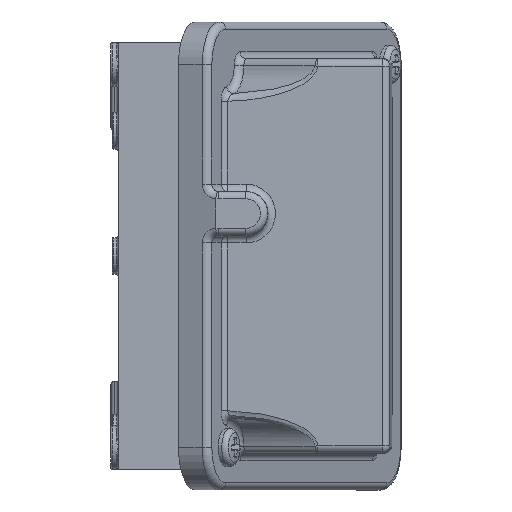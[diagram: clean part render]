
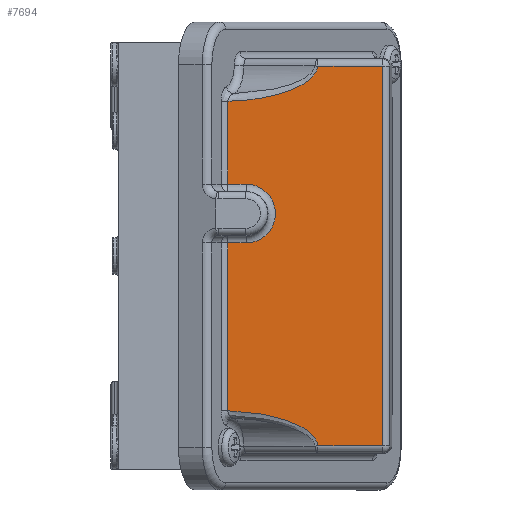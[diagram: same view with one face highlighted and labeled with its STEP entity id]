
A CAD part, front view. The second image highlights one B-rep face of the part: STEP entity #7694.
In plain terms, the highlighted planar face has unit normal (-0.005, -1, 0).
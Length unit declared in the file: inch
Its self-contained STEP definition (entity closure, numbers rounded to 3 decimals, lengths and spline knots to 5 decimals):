
#68 = DIRECTION ( 'NONE',  ( -1., 0.005, 0. ) ) ;
#87 = EDGE_CURVE ( 'NONE', #4641, #1575, #5794, .T. ) ;
#96 = EDGE_CURVE ( 'NONE', #1575, #7497, #137, .T. ) ;
#137 =( BOUNDED_CURVE ( )  B_SPLINE_CURVE ( 3, ( #4941, #218, #2828, #2641 ),
 .UNSPECIFIED., .F., .T. ) 
 B_SPLINE_CURVE_WITH_KNOTS ( ( 4, 4 ),
 ( 1.62751, 3.09357 ),
 .UNSPECIFIED. ) 
 CURVE ( )  GEOMETRIC_REPRESENTATION_ITEM ( )  RATIONAL_B_SPLINE_CURVE ( ( 1., 0.829, 0.829, 1. ) ) 
 REPRESENTATION_ITEM ( '' )  );
#218 = CARTESIAN_POINT ( 'NONE',  ( 1.36714, -3.55849, -1.32254 ) ) ;
#330 = VERTEX_POINT ( 'NONE', #6708 ) ;
#459 = EDGE_CURVE ( 'NONE', #5770, #3594, #6228, .T. ) ;
#655 = LINE ( 'NONE', #3074, #3153 ) ;
#695 = ORIENTED_EDGE ( 'NONE', *, *, #5471, .T. ) ;
#880 = LINE ( 'NONE', #6786, #5280 ) ;
#947 = EDGE_CURVE ( 'NONE', #3604, #330, #6978, .T. ) ;
#984 = CARTESIAN_POINT ( 'NONE',  ( 0.932, -3.55622, 0.6095 ) ) ;
#1133 = VERTEX_POINT ( 'NONE', #4243 ) ;
#1371 = CARTESIAN_POINT ( 'NONE',  ( 1.08558, -3.55702, 0.36 ) ) ;
#1441 = DIRECTION ( 'NONE',  ( 0., 0., -1. ) ) ;
#1462 =( BOUNDED_CURVE ( )  B_SPLINE_CURVE ( 3, ( #7365, #1983, #4377, #6338 ),
 .UNSPECIFIED., .F., .F. ) 
 B_SPLINE_CURVE_WITH_KNOTS ( ( 4, 4 ),
 ( 3.18961, 4.65567 ),
 .UNSPECIFIED. ) 
 CURVE ( )  GEOMETRIC_REPRESENTATION_ITEM ( )  RATIONAL_B_SPLINE_CURVE ( ( 1., 0.829, 0.829, 1. ) ) 
 REPRESENTATION_ITEM ( '' )  );
#1575 = VERTEX_POINT ( 'NONE', #7760 ) ;
#1926 = CARTESIAN_POINT ( 'NONE',  ( 2.30517, -3.56338, -1.61 ) ) ;
#1983 = CARTESIAN_POINT ( 'NONE',  ( 1.67399, -3.56009, 1.44199 ) ) ;
#2326 = DIRECTION ( 'NONE',  ( 1., -0.005, 0. ) ) ;
#2400 = DIRECTION ( 'NONE',  ( -1., 0.005, 0. ) ) ;
#2499 = PLANE ( 'NONE',  #5264 ) ;
#2531 = DIRECTION ( 'NONE',  ( -1., 0.005, 0. ) ) ;
#2586 = VECTOR ( 'NONE', #5082, 39.37008 ) ;
#2605 = CARTESIAN_POINT ( 'NONE',  ( 0.932, -3.55622, 1.6725 ) ) ;
#2641 = CARTESIAN_POINT ( 'NONE',  ( 1.69491, -3.5602, -1.61 ) ) ;
#2828 = CARTESIAN_POINT ( 'NONE',  ( 1.67399, -3.56009, -1.44199 ) ) ;
#2839 = CARTESIAN_POINT ( 'NONE',  ( 2.24267, -3.56306, 1.61 ) ) ;
#2890 = ORIENTED_EDGE ( 'NONE', *, *, #87, .T. ) ;
#3062 = VECTOR ( 'NONE', #2531, 39.37008 ) ;
#3070 = ORIENTED_EDGE ( 'NONE', *, *, #7407, .T. ) ;
#3074 = CARTESIAN_POINT ( 'NONE',  ( 2.30517, -3.56338, 0.1105 ) ) ;
#3076 = ORIENTED_EDGE ( 'NONE', *, *, #947, .T. ) ;
#3153 = VECTOR ( 'NONE', #68, 39.37008 ) ;
#3202 = VERTEX_POINT ( 'NONE', #5815 ) ;
#3359 = CARTESIAN_POINT ( 'NONE',  ( 2.24267, -3.56306, -1.61 ) ) ;
#3375 = CARTESIAN_POINT ( 'NONE',  ( 1.69491, -3.5602, -1.61 ) ) ;
#3476 = EDGE_CURVE ( 'NONE', #330, #4641, #655, .T. ) ;
#3594 = VERTEX_POINT ( 'NONE', #2839 ) ;
#3604 = VERTEX_POINT ( 'NONE', #4597 ) ;
#3666 = ORIENTED_EDGE ( 'NONE', *, *, #96, .T. ) ;
#4043 = DIRECTION ( 'NONE',  ( 0., 0., -1. ) ) ;
#4180 = EDGE_CURVE ( 'NONE', #1133, #3202, #1462, .T. ) ;
#4229 = CARTESIAN_POINT ( 'NONE',  ( 2.30517, -3.56338, 1.6725 ) ) ;
#4243 = CARTESIAN_POINT ( 'NONE',  ( 1.69491, -3.5602, 1.61 ) ) ;
#4291 = DIRECTION ( 'NONE',  ( 0.005, 1., 0. ) ) ;
#4330 = VECTOR ( 'NONE', #4043, 39.37008 ) ;
#4377 = CARTESIAN_POINT ( 'NONE',  ( 1.36714, -3.55849, 1.32254 ) ) ;
#4597 = CARTESIAN_POINT ( 'NONE',  ( 1.08558, -3.55702, 0.6095 ) ) ;
#4641 = VERTEX_POINT ( 'NONE', #6923 ) ;
#4782 = ORIENTED_EDGE ( 'NONE', *, *, #459, .T. ) ;
#4788 = EDGE_CURVE ( 'NONE', #7497, #5770, #5446, .T. ) ;
#4941 = CARTESIAN_POINT ( 'NONE',  ( 0.932, -3.55622, -1.313 ) ) ;
#4977 = DIRECTION ( 'NONE',  ( 1., -0.005, 0. ) ) ;
#5082 = DIRECTION ( 'NONE',  ( 0., 0., 1. ) ) ;
#5206 = EDGE_LOOP ( 'NONE', ( #2890, #3666, #7476, #4782, #695, #6471, #3070, #7649, #3076, #6143 ) ) ;
#5264 = AXIS2_PLACEMENT_3D ( 'NONE', #4229, #7249, #5943 ) ;
#5280 = VECTOR ( 'NONE', #1441, 39.37008 ) ;
#5325 = LINE ( 'NONE', #7772, #6446 ) ;
#5398 = VERTEX_POINT ( 'NONE', #984 ) ;
#5446 = LINE ( 'NONE', #1926, #6824 ) ;
#5471 = EDGE_CURVE ( 'NONE', #3594, #1133, #7782, .T. ) ;
#5712 = CARTESIAN_POINT ( 'NONE',  ( 2.24267, -3.56306, 1.6725 ) ) ;
#5770 = VERTEX_POINT ( 'NONE', #3359 ) ;
#5794 = LINE ( 'NONE', #2605, #4330 ) ;
#5815 = CARTESIAN_POINT ( 'NONE',  ( 0.932, -3.55622, 1.313 ) ) ;
#5863 = EDGE_CURVE ( 'NONE', #5398, #3604, #5325, .T. ) ;
#5943 = DIRECTION ( 'NONE',  ( -1., 0.005, 0. ) ) ;
#6143 = ORIENTED_EDGE ( 'NONE', *, *, #3476, .T. ) ;
#6228 = LINE ( 'NONE', #5712, #2586 ) ;
#6338 = CARTESIAN_POINT ( 'NONE',  ( 0.932, -3.55622, 1.313 ) ) ;
#6446 = VECTOR ( 'NONE', #2326, 39.37008 ) ;
#6471 = ORIENTED_EDGE ( 'NONE', *, *, #4180, .T. ) ;
#6694 = CARTESIAN_POINT ( 'NONE',  ( 2.30517, -3.56338, 1.61 ) ) ;
#6708 = CARTESIAN_POINT ( 'NONE',  ( 1.08558, -3.55702, 0.1105 ) ) ;
#6786 = CARTESIAN_POINT ( 'NONE',  ( 0.932, -3.55622, 1.6725 ) ) ;
#6824 = VECTOR ( 'NONE', #4977, 39.37008 ) ;
#6923 = CARTESIAN_POINT ( 'NONE',  ( 0.932, -3.55622, 0.1105 ) ) ;
#6978 = CIRCLE ( 'NONE', #7604, 0.2495 ) ;
#7209 = FACE_OUTER_BOUND ( 'NONE', #5206, .T. ) ;
#7249 = DIRECTION ( 'NONE',  ( 0.005, 1., 0. ) ) ;
#7365 = CARTESIAN_POINT ( 'NONE',  ( 1.69491, -3.5602, 1.61 ) ) ;
#7407 = EDGE_CURVE ( 'NONE', #3202, #5398, #880, .T. ) ;
#7476 = ORIENTED_EDGE ( 'NONE', *, *, #4788, .T. ) ;
#7497 = VERTEX_POINT ( 'NONE', #3375 ) ;
#7604 = AXIS2_PLACEMENT_3D ( 'NONE', #1371, #4291, #2400 ) ;
#7649 = ORIENTED_EDGE ( 'NONE', *, *, #5863, .T. ) ;
#7694 = ADVANCED_FACE ( 'NONE', ( #7209 ), #2499, .F. ) ;
#7760 = CARTESIAN_POINT ( 'NONE',  ( 0.932, -3.55622, -1.313 ) ) ;
#7772 = CARTESIAN_POINT ( 'NONE',  ( 2.30517, -3.56338, 0.6095 ) ) ;
#7782 = LINE ( 'NONE', #6694, #3062 ) ;
